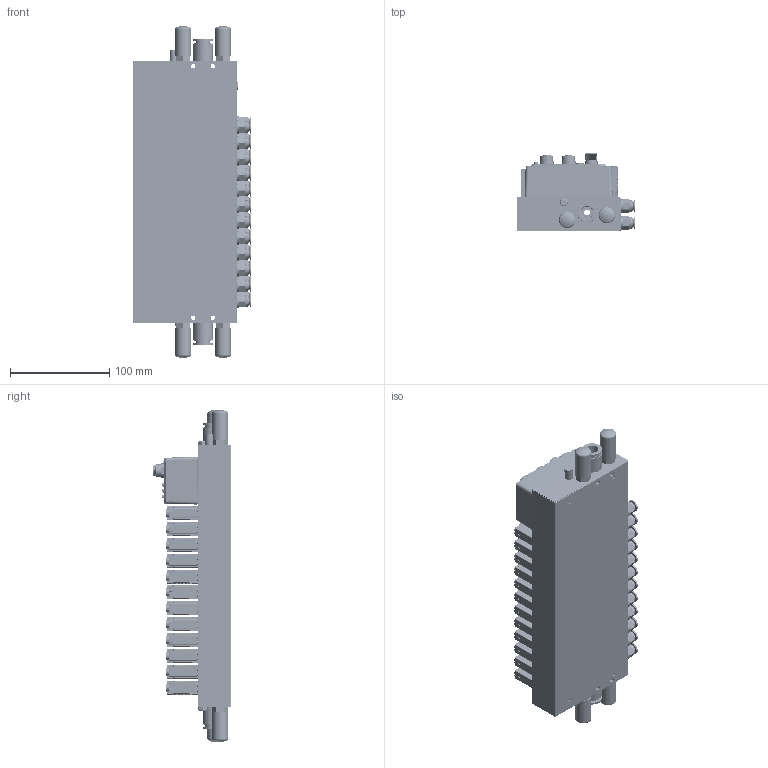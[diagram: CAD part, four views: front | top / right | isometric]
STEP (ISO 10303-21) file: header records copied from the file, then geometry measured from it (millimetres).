
FILE_DESCRIPTION(/* description */ (''),/* implementation_level */ '2;1');
FILE_NAME(/* name */ 'EV-XX-F2-12-X-XX-XX-A-X-C.stp',/* time_stamp */ '2025-09-30T10:22:54+08:00',/* author */ (''),/* organization */ (''),/* preprocessor_version */ 'ST-DEVELOPER v19.4',/* originating_system */ 'SIEMENS PLM Software NX2212.7001',/* authorisation */ '');
FILE_SCHEMA (('AUTOMOTIVE_DESIGN { 1 0 10303 214 3 1 1 1 }'));
Products named in the file (1): EV-EC-F2-A1B9X2-L-12-06-A-I-C_objects
Bounding box: 119.9 x 78.8 x 335 mm (x, y, z)
Volume: 1193631 mm3; surface area: 383089.3 mm2
Topology: 44 solids, 85 shells, 11698 faces, 30231 edges, 19139 vertices
Faces by surface type: cylinder 5029, plane 4576, torus 1121, cone 411, bspline 295, sphere 264, extrusion 2
Full cylindrical faces by diameter (mm): 1 x5, 1.05 x5, 1.2 x8, 1.4 x12, 1.5 x12, 1.7 x8, 2.05 x28, 2.15 x2, 2.3 x4, 2.48 x4, 2.5 x3, 2.8 x4, 3.3 x2, 3.446 x6, 3.5 x7, 3.7 x1, 4 x2, 4.134 x5, 4.3 x4, 4.5 x4, 5.1 x24, 5.3 x24, 5.4 x2, 5.5 x74, 6 x1, 6.2 x48, 8 x9, 8.1 x24, 8.3 x1, 8.566 x13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
Entity records: 434669 total; most frequent: CARTESIAN_POINT 85614, DIRECTION 62058, ORIENTED_EDGE 58330, EDGE_CURVE 29165, AXIS2_PLACEMENT_3D 23516, VERTEX_POINT 18798, VECTOR 15026, LINE 15024
